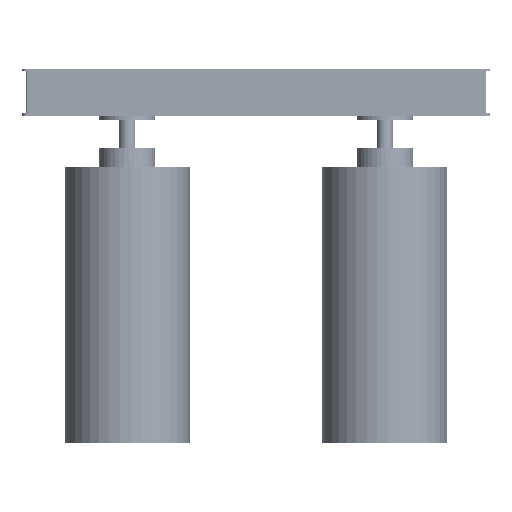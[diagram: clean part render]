
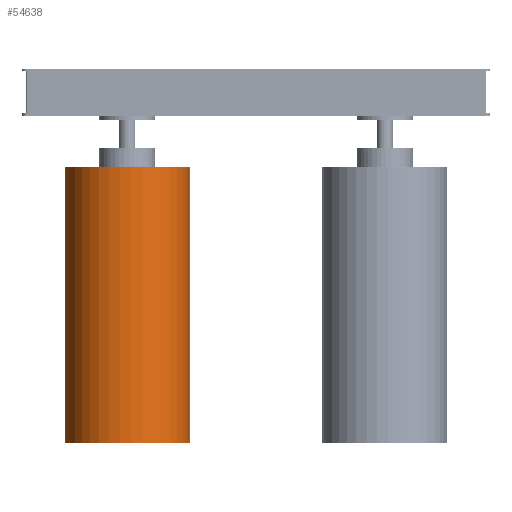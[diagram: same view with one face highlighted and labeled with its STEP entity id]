
A CAD part, left-side view. The second image highlights one B-rep face of the part: STEP entity #54638.
In plain terms, the highlighted cylindrical face has radius 133.5 mm (diameter 267 mm), a partial arc.
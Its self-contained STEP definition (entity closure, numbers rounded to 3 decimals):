
#2738 = DIRECTION ( 'NONE',  ( 0., 0., -1. ) ) ;
#7274 = VERTEX_POINT ( 'NONE', #69251 ) ;
#10823 = DIRECTION ( 'NONE',  ( 0., 0., 1. ) ) ;
#11296 = CIRCLE ( 'NONE', #34326, 133.5 ) ;
#14292 = CARTESIAN_POINT ( 'NONE',  ( -360.814, 168.972, -112.5 ) ) ;
#15683 = LINE ( 'NONE', #71233, #33229 ) ;
#16663 = CYLINDRICAL_SURFACE ( 'NONE', #111127, 133.5 ) ;
#16980 = EDGE_LOOP ( 'NONE', ( #104861, #59430, #53173, #37173 ) ) ;
#21716 = CIRCLE ( 'NONE', #26323, 133.5 ) ;
#22289 = LINE ( 'NONE', #14292, #117869 ) ;
#24274 = VERTEX_POINT ( 'NONE', #61983 ) ;
#24475 = DIRECTION ( 'NONE',  ( -0.119, -0.993, 0. ) ) ;
#25798 = EDGE_CURVE ( 'NONE', #24274, #67299, #15683, .T. ) ;
#26323 = AXIS2_PLACEMENT_3D ( 'NONE', #38378, #41242, #61462 ) ;
#33229 = VECTOR ( 'NONE', #2738, 1000. ) ;
#34326 = AXIS2_PLACEMENT_3D ( 'NONE', #65638, #10823, #24475 ) ;
#37173 = ORIENTED_EDGE ( 'NONE', *, *, #66260, .T. ) ;
#38378 = CARTESIAN_POINT ( 'NONE',  ( -344.868, 301.517, -112.5 ) ) ;
#41242 = DIRECTION ( 'NONE',  ( 0., 0., 1. ) ) ;
#48797 = EDGE_CURVE ( 'NONE', #63571, #7274, #22289, .T. ) ;
#50559 = DIRECTION ( 'NONE',  ( 0.119, 0.993, 0. ) ) ;
#53173 = ORIENTED_EDGE ( 'NONE', *, *, #25798, .T. ) ;
#54638 = ADVANCED_FACE ( 'NONE', ( #115403 ), #16663, .T. ) ;
#59430 = ORIENTED_EDGE ( 'NONE', *, *, #135841, .F. ) ;
#59594 = CARTESIAN_POINT ( 'NONE',  ( -360.814, 168.972, -112.5 ) ) ;
#60670 = DIRECTION ( 'NONE',  ( 0., 0., -1. ) ) ;
#61462 = DIRECTION ( 'NONE',  ( -0.119, -0.993, 0. ) ) ;
#61983 = CARTESIAN_POINT ( 'NONE',  ( -328.922, 434.061, -112.5 ) ) ;
#63571 = VERTEX_POINT ( 'NONE', #59594 ) ;
#65638 = CARTESIAN_POINT ( 'NONE',  ( -344.868, 301.517, -702.5 ) ) ;
#66260 = EDGE_CURVE ( 'NONE', #67299, #7274, #11296, .T. ) ;
#67299 = VERTEX_POINT ( 'NONE', #72931 ) ;
#69251 = CARTESIAN_POINT ( 'NONE',  ( -360.814, 168.972, -702.5 ) ) ;
#71233 = CARTESIAN_POINT ( 'NONE',  ( -328.922, 434.061, -112.5 ) ) ;
#72931 = CARTESIAN_POINT ( 'NONE',  ( -328.922, 434.061, -702.5 ) ) ;
#99433 = DIRECTION ( 'NONE',  ( 0., 0., -1. ) ) ;
#104861 = ORIENTED_EDGE ( 'NONE', *, *, #48797, .F. ) ;
#111127 = AXIS2_PLACEMENT_3D ( 'NONE', #136296, #60670, #50559 ) ;
#115403 = FACE_OUTER_BOUND ( 'NONE', #16980, .T. ) ;
#117869 = VECTOR ( 'NONE', #99433, 1000. ) ;
#135841 = EDGE_CURVE ( 'NONE', #24274, #63571, #21716, .T. ) ;
#136296 = CARTESIAN_POINT ( 'NONE',  ( -344.868, 301.517, -112.5 ) ) ;
